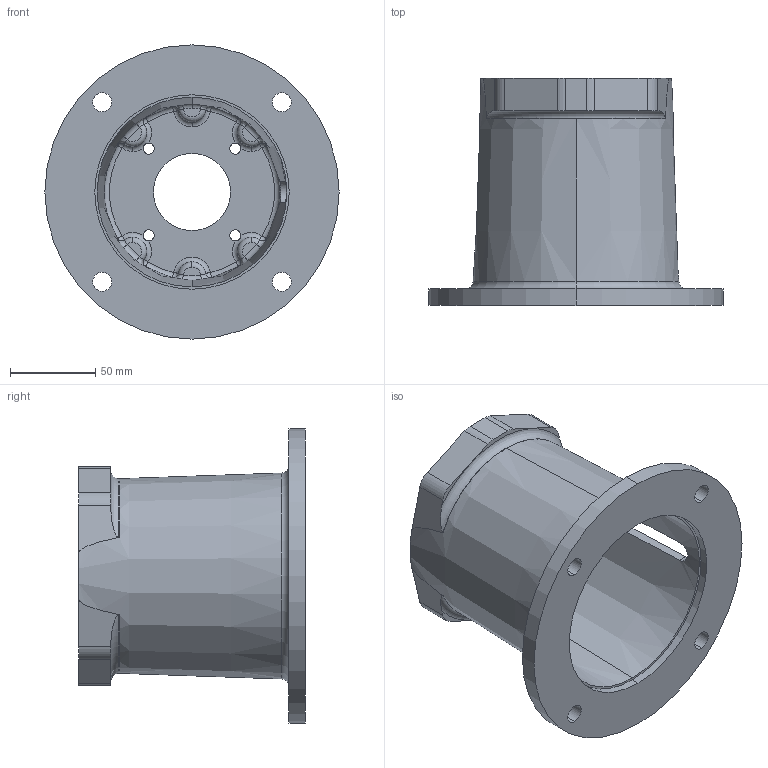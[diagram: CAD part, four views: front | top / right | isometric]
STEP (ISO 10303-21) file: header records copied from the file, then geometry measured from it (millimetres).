
FILE_DESCRIPTION (( 'STEP AP203' ), '1' );
FILE_NAME ('M056524F.STEP', '2008-05-16T19:25:14', ( 'Chris McCoy' ), ( 'Magnaloy Coupling Co' ), 'SwSTEP 2.0', 'SolidWorks 2008', '' );
FILE_SCHEMA (( 'CONFIG_CONTROL_DESIGN' ));
Length unit declared in the file: inch
Products named in the file (1): M056524F
Bounding box: 172.97 x 133.35 x 172.97 mm (x, y, z)
Volume: 427871.7 mm3; surface area: 137533.8 mm2
Topology: 1 solids, 1 shells, 163 faces, 422 edges, 248 vertices
Faces by surface type: torus 48, cylinder 32, plane 25, sphere 24, bspline 24, cone 10
Entity records: 6739 total; most frequent: CARTESIAN_POINT 2734, DIRECTION 890, ORIENTED_EDGE 820, AXIS2_PLACEMENT_3D 412, EDGE_CURVE 410, CIRCLE 272, VERTEX_POINT 248, EDGE_LOOP 182
